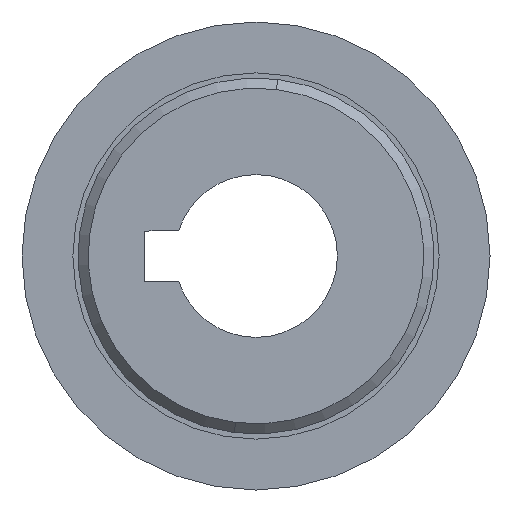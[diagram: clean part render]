
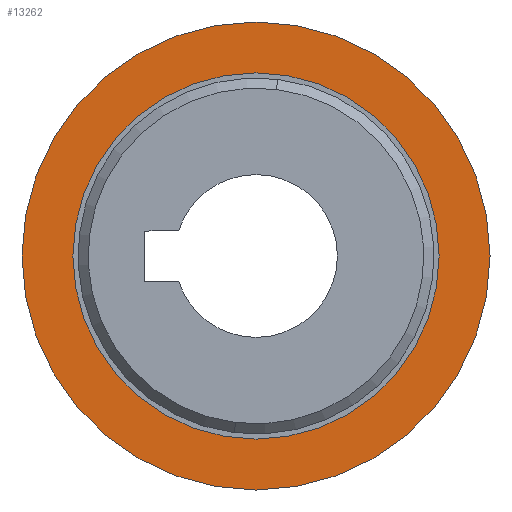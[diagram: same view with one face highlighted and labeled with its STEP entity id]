
A CAD part, left-side view. The second image highlights one B-rep face of the part: STEP entity #13262.
In plain terms, the highlighted planar face has unit normal (-1, 0, 0).
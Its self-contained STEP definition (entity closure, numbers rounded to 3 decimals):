
#1663 = DIRECTION ( 'NONE',  ( 1., 0., 0. ) ) ;
#2002 = CIRCLE ( 'NONE', #14371, 18. ) ;
#3695 = CIRCLE ( 'NONE', #11627, 23. ) ;
#3773 = DIRECTION ( 'NONE',  ( 1., 0., 0. ) ) ;
#4758 = FACE_BOUND ( 'NONE', #17675, .T. ) ;
#4889 = DIRECTION ( 'NONE',  ( 0., 0., -1. ) ) ;
#6133 = CIRCLE ( 'NONE', #24677, 23. ) ;
#6547 = VERTEX_POINT ( 'NONE', #26676 ) ;
#6926 = CARTESIAN_POINT ( 'NONE',  ( -0.4, 0., 0. ) ) ;
#6956 = PLANE ( 'NONE',  #23275 ) ;
#7873 = AXIS2_PLACEMENT_3D ( 'NONE', #14246, #1663, #8137 ) ;
#7983 = CARTESIAN_POINT ( 'NONE',  ( -0.4, 0., 23. ) ) ;
#8137 = DIRECTION ( 'NONE',  ( 0., 0., -1. ) ) ;
#9681 = EDGE_CURVE ( 'NONE', #27057, #26111, #2002, .T. ) ;
#9734 = CARTESIAN_POINT ( 'NONE',  ( -0.4, 0., 18. ) ) ;
#10929 = DIRECTION ( 'NONE',  ( 0., 0., -1. ) ) ;
#10979 = DIRECTION ( 'NONE',  ( 1., 0., 0. ) ) ;
#11343 = CARTESIAN_POINT ( 'NONE',  ( -0.4, 0., 0. ) ) ;
#11393 = CARTESIAN_POINT ( 'NONE',  ( -0.4, 0., 0. ) ) ;
#11627 = AXIS2_PLACEMENT_3D ( 'NONE', #6926, #15505, #15374 ) ;
#12701 = ORIENTED_EDGE ( 'NONE', *, *, #15755, .T. ) ;
#13254 = ORIENTED_EDGE ( 'NONE', *, *, #9681, .T. ) ;
#13262 = ADVANCED_FACE ( 'NONE', ( #4758, #26313 ), #6956, .F. ) ;
#13641 = CIRCLE ( 'NONE', #7873, 18. ) ;
#14246 = CARTESIAN_POINT ( 'NONE',  ( -0.4, 0., 0. ) ) ;
#14371 = AXIS2_PLACEMENT_3D ( 'NONE', #11343, #21411, #10929 ) ;
#15374 = DIRECTION ( 'NONE',  ( 0., 0., -1. ) ) ;
#15505 = DIRECTION ( 'NONE',  ( 1., 0., 0. ) ) ;
#15552 = EDGE_CURVE ( 'NONE', #6547, #26388, #6133, .T. ) ;
#15755 = EDGE_CURVE ( 'NONE', #26111, #27057, #13641, .T. ) ;
#16743 = CARTESIAN_POINT ( 'NONE',  ( -0.4, 0., -18. ) ) ;
#17675 = EDGE_LOOP ( 'NONE', ( #12701, #13254 ) ) ;
#20591 = ORIENTED_EDGE ( 'NONE', *, *, #27301, .F. ) ;
#21317 = EDGE_LOOP ( 'NONE', ( #23705, #20591 ) ) ;
#21411 = DIRECTION ( 'NONE',  ( 1., 0., 0. ) ) ;
#22712 = CARTESIAN_POINT ( 'NONE',  ( -0.4, 0., 0. ) ) ;
#23275 = AXIS2_PLACEMENT_3D ( 'NONE', #11393, #10979, #4889 ) ;
#23705 = ORIENTED_EDGE ( 'NONE', *, *, #15552, .F. ) ;
#24677 = AXIS2_PLACEMENT_3D ( 'NONE', #22712, #3773, #25852 ) ;
#25852 = DIRECTION ( 'NONE',  ( 0., 0., -1. ) ) ;
#26111 = VERTEX_POINT ( 'NONE', #16743 ) ;
#26313 = FACE_OUTER_BOUND ( 'NONE', #21317, .T. ) ;
#26388 = VERTEX_POINT ( 'NONE', #7983 ) ;
#26676 = CARTESIAN_POINT ( 'NONE',  ( -0.4, 0., -23. ) ) ;
#27057 = VERTEX_POINT ( 'NONE', #9734 ) ;
#27301 = EDGE_CURVE ( 'NONE', #26388, #6547, #3695, .T. ) ;
